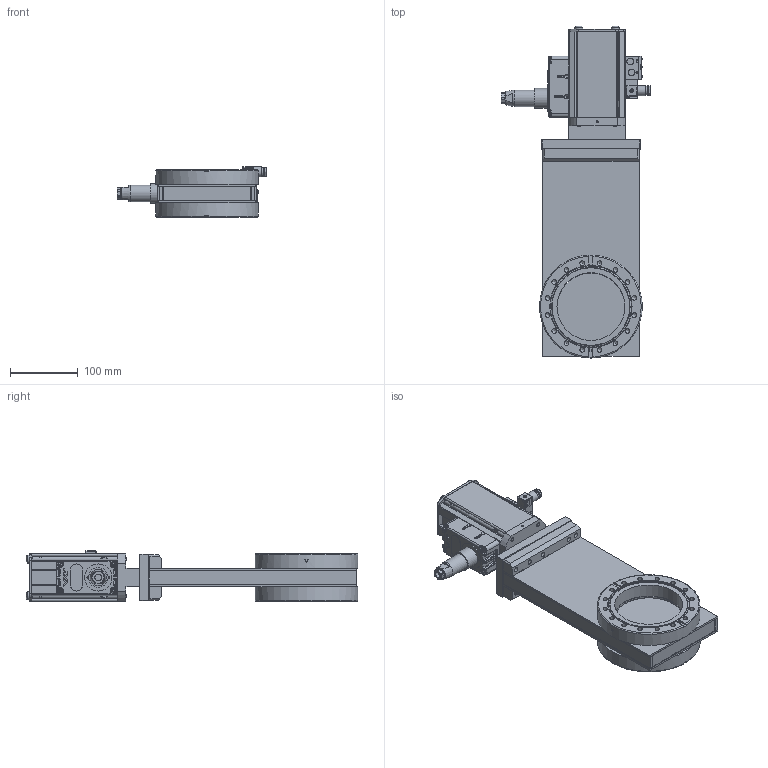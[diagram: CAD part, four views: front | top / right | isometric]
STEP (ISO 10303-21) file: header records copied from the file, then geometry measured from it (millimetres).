
FILE_DESCRIPTION(/* description */ (''),/* implementation_level */ '2;1');
FILE_NAME(/* name */ '1637920640_203.stp',/* time_stamp */ '2017-07-25T09:27:04+02:00',/* author */ (''),/* organization */ (''),/* preprocessor_version */ 'ST-DEVELOPER v15',/* originating_system */ 'SIEMENS PLM Software NX 9.0',/* authorisation */ '');
FILE_SCHEMA (('AP203_CONFIGURATION_CONTROLLED_3D_DESIGN_OF_MECHANICAL_PARTS_AND_ASSEMBLIES_MIM_LF { 1 0 10303 403 2 1 2}'));
Products named in the file (49): 500156; 800510; 387037; 800510_22809ID; 70986-01.1; N-6240-008.1; N-6195-007.2; 71055-01.1; n-6011-049.1; 70973-01.1; 467882; 437235; 840726_22738ID; 840726_22751ID; 840731_22750ID; 840731_22749ID; 840738_22747ID; 840727_22745ID; 840727_22740ID; 70988-01.1; n-8504-002; n-6024-548.1; 70987-01.1; 69128.3; 72872-01.1; N-7557-016_1.1; N-7557-018.1; N-7557-016_2.1; N-6024-524.1; N-5018-005.1; n-6099-454.1; 25834-01.2_22742ID; 25834-01.2; N-6024-571.1; 85948-01.1; 94222-01.1; 73003-01.1; 63216-01.1; 73638-r1.1; 387036_MODELNX-ARRAGMNTMikroschalter neue Höhe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
Assembly tree (73 placements, depth 5):
  418486
    94235-R1.2
      73003-01.1  x4
      94222-01.1
      85948-01.1
      N-6024-571.1  x4
    212155.4
      212039.7_MODEL
        840727_22740ID
        840727_22745ID
        840738_22747ID
        840731_22749ID
        840731_22750ID
        840726_22751ID
        840726_22738ID
      25834-01.2
      25834-01.2_22742ID
      n-6099-454.1  x2
    94800-R1.7_NX-ARRAGMNTKONFIG1
      N-5018-005.1  x2
      N-6024-524.1  x6
      N-7557-016_2.1
      N-7557-018.1
      N-7557-016_1.1
      N-7557-016_3.1_MODELNX-ARRAGMNTArrangement 1
        437235
        467882
    82468-R1.2
      72872-01.1
      69128.3
    63216-01.1
    387044_MODEL
      387035_MODEL
        70973-01.1
        n-6011-049.1  x2
        387036_MODELNX-ARRAGMNTMikroschalter neue Höhe
          800510_22809ID
          387037
          800510
          500156
      73638-r1.1
        71055-01.1  x4
        N-6195-007.2  x4
        N-6240-008.1  x2
        70986-01.1
      70987-01.1
      n-6024-548.1  x4
      n-8504-002
      70988-01.1  x2
Bounding box: 220.9 x 489.67 x 74.35 mm (x, y, z)
Volume: 1668254.2 mm3; surface area: 584981 mm2
Topology: 159 solids, 159 shells, 3755 faces, 9501 edges, 6354 vertices
Faces by surface type: plane 2534, cylinder 763, cone 150, torus 100, bspline 96, extrusion 84, sphere 28
Full cylindrical faces by diameter (mm): 0.7 x1, 1 x7, 1.1 x14, 1.5 x11, 1.6 x14, 1.66 x7, 1.97 x4, 2 x30, 2.125 x1, 2.265 x2, 2.46 x2, 2.5 x27, 2.65 x1, 2.8 x2, 3 x14, 3.2 x2, 3.3 x4, 3.4 x6, 3.5 x4, 4 x12, 4.2 x3, 4.22 x1, 4.35 x2, 4.4 x4, 4.45 x4, 4.625 x2, 4.675 x2, 4.75 x8, 5 x7, 5.5 x1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
Entity records: 118495 total; most frequent: CARTESIAN_POINT 31451, ORIENTED_EDGE 15222, DIRECTION 14456, EDGE_CURVE 7611, VERTEX_POINT 5411, AXIS2_PLACEMENT_3D 4867, VECTOR 4722, LINE 4638
